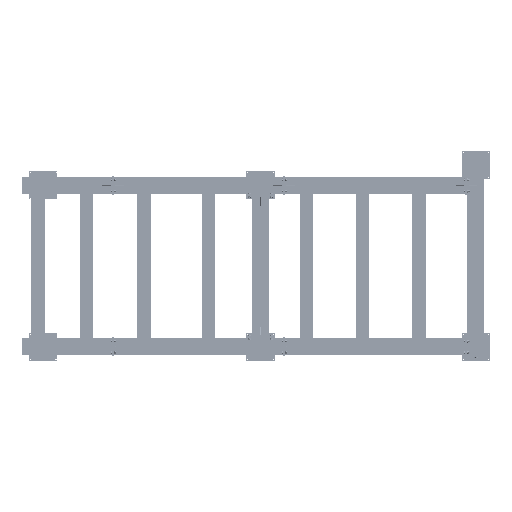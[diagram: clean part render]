
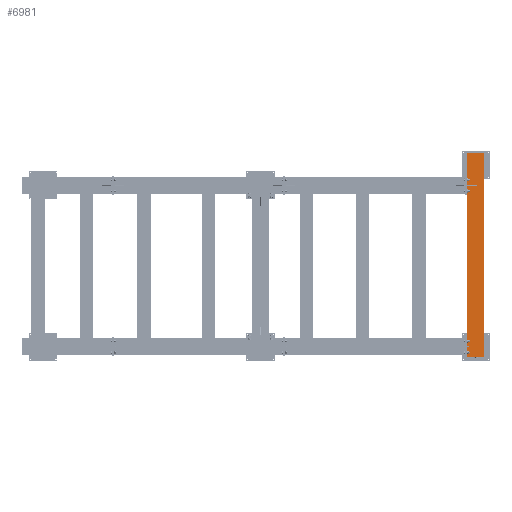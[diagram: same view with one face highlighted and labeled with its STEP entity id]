
A CAD part, top view. The second image highlights one B-rep face of the part: STEP entity #6981.
In plain terms, the highlighted planar face has unit normal (0, 0, 1) as drawn and (-1, 0, 0) by its records, which use the part's own axes.
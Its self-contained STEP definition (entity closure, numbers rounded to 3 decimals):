
#645 = VECTOR ( 'NONE', #45985, 1000. ) ;
#4087 = EDGE_LOOP ( 'NONE', ( #13263, #45243, #17747, #48089 ) ) ;
#5398 = LINE ( 'NONE', #51490, #645 ) ;
#5868 = EDGE_CURVE ( 'NONE', #12807, #41296, #23477, .T. ) ;
#6981 = ADVANCED_FACE ( 'NONE', ( #9054 ), #20768, .F. ) ;
#9054 = FACE_OUTER_BOUND ( 'NONE', #4087, .T. ) ;
#12807 = VERTEX_POINT ( 'NONE', #77949 ) ;
#13263 = ORIENTED_EDGE ( 'NONE', *, *, #72744, .T. ) ;
#15829 = CARTESIAN_POINT ( 'NONE',  ( -3480., -156343.723, -3600. ) ) ;
#17747 = ORIENTED_EDGE ( 'NONE', *, *, #61224, .F. ) ;
#20768 = PLANE ( 'NONE',  #67962 ) ;
#20840 = CARTESIAN_POINT ( 'NONE',  ( -3480., -156643.723, 30. ) ) ;
#23145 = LINE ( 'NONE', #29105, #72086 ) ;
#23477 = LINE ( 'NONE', #15829, #47882 ) ;
#26698 = EDGE_CURVE ( 'NONE', #41136, #62085, #29121, .T. ) ;
#29105 = CARTESIAN_POINT ( 'NONE',  ( -3480., -156343.723, -3600. ) ) ;
#29121 = LINE ( 'NONE', #20840, #30016 ) ;
#30016 = VECTOR ( 'NONE', #37727, 1000. ) ;
#32664 = CARTESIAN_POINT ( 'NONE',  ( -3480., -156643.723, 30. ) ) ;
#37727 = DIRECTION ( 'NONE',  ( 0., -1., 0. ) ) ;
#41136 = VERTEX_POINT ( 'NONE', #53837 ) ;
#41296 = VERTEX_POINT ( 'NONE', #64853 ) ;
#45243 = ORIENTED_EDGE ( 'NONE', *, *, #26698, .F. ) ;
#45985 = DIRECTION ( 'NONE',  ( 0., 0., 1. ) ) ;
#47882 = VECTOR ( 'NONE', #63699, 1000. ) ;
#48089 = ORIENTED_EDGE ( 'NONE', *, *, #5868, .F. ) ;
#51490 = CARTESIAN_POINT ( 'NONE',  ( -3480., -156643.723, -3600. ) ) ;
#53837 = CARTESIAN_POINT ( 'NONE',  ( -3480., -156343.723, 30. ) ) ;
#61224 = EDGE_CURVE ( 'NONE', #41296, #41136, #23145, .T. ) ;
#62085 = VERTEX_POINT ( 'NONE', #32664 ) ;
#63298 = DIRECTION ( 'NONE',  ( 1., 0., 0. ) ) ;
#63699 = DIRECTION ( 'NONE',  ( 0., 1., 0. ) ) ;
#63811 = DIRECTION ( 'NONE',  ( 0., 1., 0. ) ) ;
#64853 = CARTESIAN_POINT ( 'NONE',  ( -3480., -156343.723, -3600. ) ) ;
#65649 = DIRECTION ( 'NONE',  ( 0., 0., 1. ) ) ;
#67962 = AXIS2_PLACEMENT_3D ( 'NONE', #69425, #63298, #63811 ) ;
#69425 = CARTESIAN_POINT ( 'NONE',  ( -3480., -156343.723, -3600. ) ) ;
#72086 = VECTOR ( 'NONE', #65649, 1000. ) ;
#72744 = EDGE_CURVE ( 'NONE', #12807, #62085, #5398, .T. ) ;
#77949 = CARTESIAN_POINT ( 'NONE',  ( -3480., -156643.723, -3600. ) ) ;
